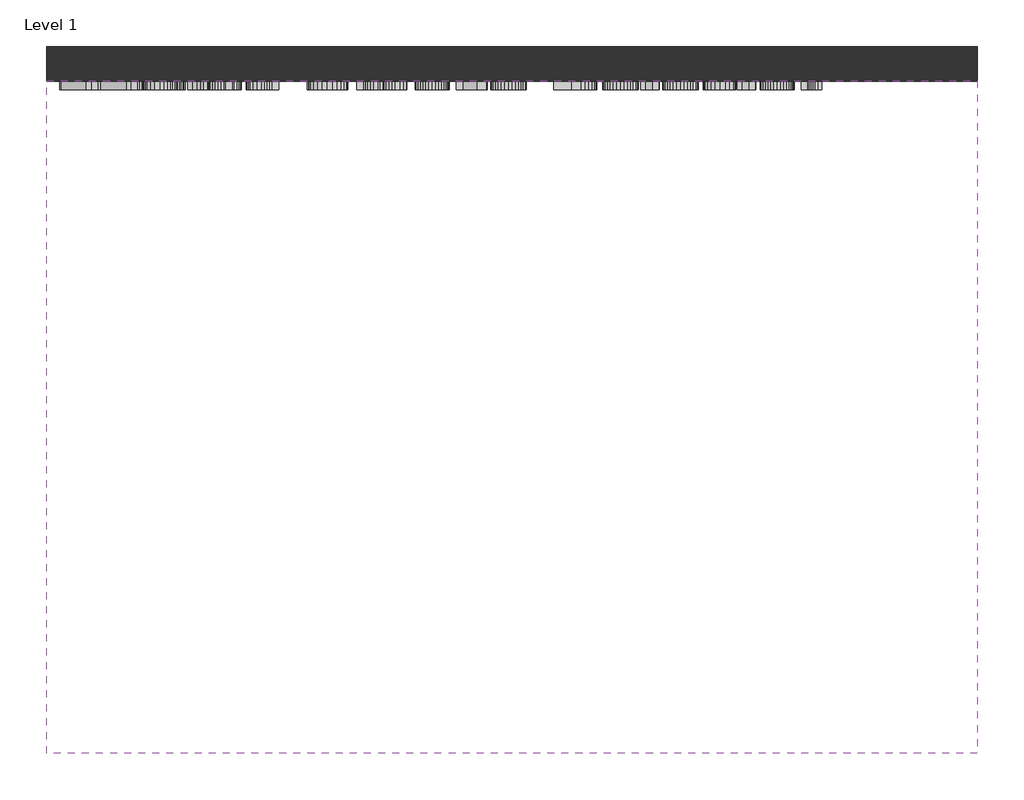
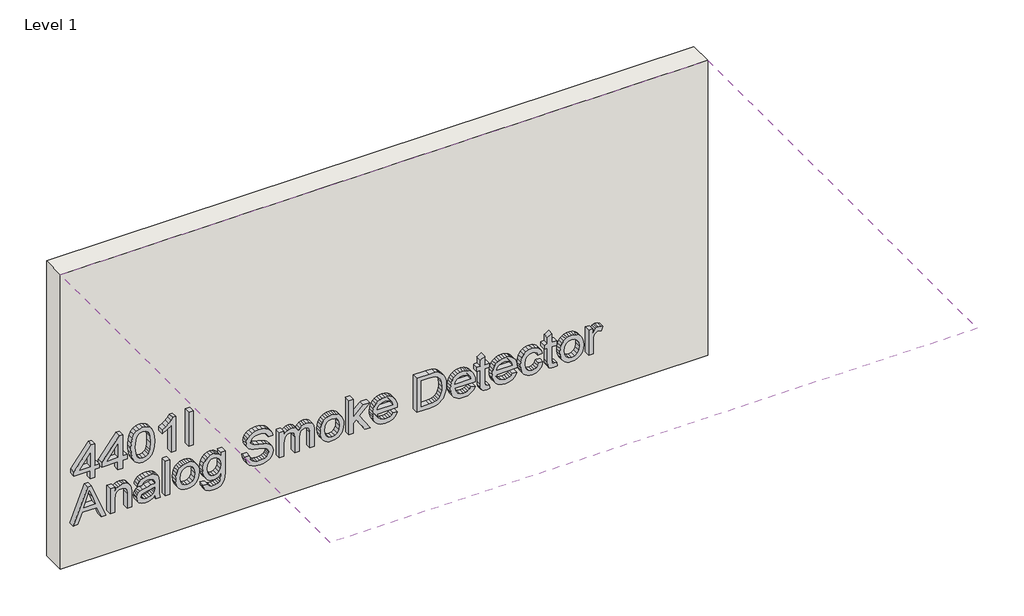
# One storey: 1 covering, 1 proxy, 1 wall.
"""IFC4 building model written with IfcOpenShell, lengths in millimetres."""

from ifc_helpers import new_model, si_unit, frame, origin, origin_with_axes, place, context, project, spatial, polyline, outline, extrude, element, save

model = new_model("IFC4")

# Units and contexts
model_context = context("Model", 3, world=origin())
ifc_project = project(units=[si_unit("LENGTHUNIT", "METRE", prefix="MILLI")], contexts=[model_context])

# Site, building, storey
site = spatial("IfcSite", under=ifc_project)
building = spatial("IfcBuilding", under=site)
storey = spatial("IfcBuildingStorey", under=building, Name="Level 1", Elevation=0.0)

# Proxy
placement = place(None, origin())
element("IfcBuildingElementProxy", 1, Name="300 mm Arial 2", ObjectType="300 mm Arial 2", at=placement, inside=storey, context=model_context, shape_type="SweptSolid", body=[
    extrude(outline(polyline([(751.1294539, -4301.5367168), (751.1294539, -4263.8656005), (821.762797, -4263.8656005), (821.762797, -4226.1944842), (859.4339133, -4226.1944842), (859.4339133, -4263.8656005), (1047.7894948, -4263.8656005), (1047.7894948, -4292.1189377), (859.4339133, -4438.0945134), (821.762797, -4438.0945134), (821.762797, -4301.5367168), (751.1294539, -4301.5367168)]), holes=[polyline([(859.4339133, -4301.5367168), (859.4339133, -4391.741382), (975.8317766, -4301.5367168), (859.4339133, -4301.5367168)])]), frame((0.0, 3097.8550077, 0.0), z_axis=(0.0, 1.0, 0.0), x_axis=(0.0, 0.0, 1.0)), (0.0, 0.0, 1.0), 50.0),
    extrude(outline(polyline([(751.1294539, -4070.8011294), (751.1294539, -4033.1300131), (821.762797, -4033.1300131), (821.762797, -3995.4588968), (859.4339133, -3995.4588968), (859.4339133, -4033.1300131), (1047.7894948, -4033.1300131), (1047.7894948, -4061.3833504), (859.4339133, -4207.3589261), (821.762797, -4207.3589261), (821.762797, -4070.8011294), (751.1294539, -4070.8011294)]), holes=[polyline([(859.4339133, -4070.8011294), (859.4339133, -4161.0057947), (975.8317766, -4070.8011294), (859.4339133, -4070.8011294)])]), frame((0.0, 3097.8550077, 0.0), z_axis=(0.0, 1.0, 0.0), x_axis=(0.0, 0.0, 1.0)), (0.0, 0.0, 1.0), 50.0),
    extrude(outline(polyline([(899.385898, -3962.4966701), (859.9443495, -3960.6204719), (826.0854104, -3954.9918774), (797.8090806, -3945.6108865), (775.11536, -3932.4774993), (762.5613869, -3918.792289), (753.5942633, -3902.752634), (748.2139891, -3884.3585343), (746.4205644, -3863.6099898), (750.5500398, -3833.1585576), (762.9384659, -3808.4644787), (783.7237987, -3789.3622061), (813.0439937, -3775.6861929), (851.4232828, -3767.4640303), (899.385898, -3764.7233095), (939.3470797, -3766.4339607), (970.203182, -3771.5659146), (994.5017878, -3779.4018011), (1014.7904798, -3789.2242503), (1030.9313024, -3802.2288789), (1042.7862997, -3819.6113031), (1050.0703632, -3840.3966359), (1052.4983843, -3863.6099898), (1048.3965001, -3893.895875), (1036.0908474, -3918.5347716), (1015.3882881, -3937.6646354), (986.0956842, -3951.423422), (947.6244246, -3959.728358), (899.385898, -3962.4966701)]), holes=[polyline([(899.4594744, -3924.8255538), (957.9527116, -3920.263817), (979.0323499, -3914.5616461), (994.6673347, -3906.5786068), (1009.7872847, -3887.632684), (1014.827268, -3864.0514482), (1009.106703, -3839.1458371), (991.9450079, -3819.4641503), (977.5838146, -3811.9961458), (957.3824945, -3806.6618569), (899.4594744, -3802.3944258), (840.2948525, -3806.8090097), (820.0314523, -3812.3272396), (805.9806594, -3820.0527615), (789.5639253, -3839.7712365), (784.0916807, -3863.6099898), (789.5455312, -3887.448743), (805.907083, -3907.167218), (819.9348833, -3914.8927399), (840.202882, -3920.4109698), (899.4594744, -3924.8255538)])]), frame((0.0, 3097.8550077, 0.0), z_axis=(0.0, 1.0, 0.0), x_axis=(0.0, 0.0, 1.0)), (0.0, 0.0, 1.0), 50.0),
    extrude(outline(polyline([(751.1294539, -3590.4943965), (1052.4983843, -3590.4943965), (1052.4983843, -3614.7746082), (1032.7615153, -3628.0827394), (1012.3992469, -3648.288658), (993.250989, -3673.920836), (977.1561517, -3703.5077455), (941.5451746, -3703.5077455), (960.5646738, -3663.8500664), (985.9853196, -3628.1655128), (751.1294539, -3628.1655128), (751.1294539, -3590.4943965)])), frame((0.0, 3097.8550077, 0.0), z_axis=(0.0, 1.0, 0.0), x_axis=(0.0, 0.0, 1.0)), (0.0, 0.0, 1.0), 50.0),
    extrude(outline(polyline([(-3444.5188209, 3097.8550077), (-3482.1899372, 3097.8550077), (-3482.1899372, 3147.8550077), (-3444.5188209, 3147.8550077), (-3444.5188209, 3097.8550077)])), frame((0.0, 0.0, 751.1294539), z_axis=(0.0, 0.0, 1.0), x_axis=(1.0, 0.0, 0.0)), (0.0, 0.0, 1.0), 301.3689304),
    extrude(outline(polyline([(385.2050004, -4444.9371185), (385.2050004, -4405.1322867), (479.3827911, -4370.6985319), (479.3827911, -4246.5751467), (385.2050004, -4212.0678156), (385.2050004, -4172.2629837), (686.5739308, -4292.5603961), (686.5739308, -4324.6397061), (385.2050004, -4444.9371185)]), holes=[polyline([(517.0539074, -4356.8661689), (597.6200644, -4327.3620329), (648.9028145, -4308.6000511), (591.1453413, -4287.4836246), (517.0539074, -4260.3339334), (517.0539074, -4356.8661689)])]), frame((0.0, 3097.8550077, 0.0), z_axis=(0.0, 1.0, 0.0), x_axis=(0.0, 0.0, 1.0)), (0.0, 0.0, 1.0), 50.0),
    extrude(outline(polyline([(385.2050004, -4136.725583), (385.2050004, -4099.0544667), (502.6329332, -4099.0544667), (537.3425995, -4094.7594444), (549.7172301, -4089.3906665), (558.7717257, -4081.8743775), (569.8633678, -4063.0664105), (573.5605819, -4041.0026878), (571.91431, -4027.1059455), (566.9754942, -4015.1405836), (559.2775634, -4005.8055779), (549.3539466, -3999.7999044), (516.0238378, -3995.4588968), (385.2050004, -3995.4588968), (385.2050004, -3957.7877805), (521.1006094, -3957.7877805), (557.5209269, -3959.7743433), (585.2224411, -3971.0683205), (595.7622603, -3981.1666813), (604.0579993, -3995.3485322), (609.4382735, -4012.3538775), (611.2316982, -4030.9227212), (609.0060121, -4051.9011919), (602.3289539, -4070.2493064), (591.2005236, -4085.9670647), (575.6207211, -4099.0544667), (606.5228087, -4099.0544667), (606.5228087, -4136.725583), (385.2050004, -4136.725583)])), frame((0.0, 3097.8550077, 0.0), z_axis=(0.0, 1.0, 0.0), x_axis=(0.0, 0.0, 1.0)), (0.0, 0.0, 1.0), 50.0),
    extrude(outline(polyline([(413.4583376, -3764.7233095), (385.2050004, -3755.3055304), (385.2050004, -3717.6344141), (416.8796401, -3725.1392068), (482.3258471, -3727.0521931), (529.1940133, -3727.0521931), (562.15624, -3728.8916031), (576.2737116, -3733.4349458), (587.7240387, -3740.4430978), (596.9854679, -3751.0105081), (604.5362459, -3766.2316256), (609.5578351, -3786.4191501), (611.2316982, -3811.8857812), (609.3371059, -3838.4376642), (603.6533291, -3861.5866388), (594.4746733, -3880.5141674), (582.0954442, -3894.4017128), (565.9086364, -3904.1597827), (545.3072447, -3910.6988851), (540.5983551, -3873.0277688), (556.2609311, -3865.5413702), (566.3133066, -3854.8543983), (571.7487631, -3839.1826253), (573.5605819, -3816.7418236), (570.8382551, -3792.4984001), (562.6712748, -3775.0975817), (551.6716032, -3767.3168775), (534.859396, -3764.7233095), (526.4716865, -3764.9440387), (519.4819286, -3791.7626361), (513.5222403, -3830.279881), (507.8568576, -3862.8742258), (495.4960225, -3889.2513648), (486.004667, -3899.8555633), (473.8645612, -3908.1972876), (459.6827103, -3913.6051529), (444.0661196, -3915.4077747), (418.7374442, -3910.6345058), (398.3751758, -3896.3146991), (384.9658771, -3873.0921482), (380.4961108, -3841.6106464), (382.3539149, -3820.7425403), (387.9273271, -3801.2539916), (398.0256879, -3782.7219361), (413.4583376, -3764.7233095)]), holes=[polyline([(488.8005702, -3764.7233095), (478.1319923, -3764.9440387), (461.2094206, -3766.4339607), (448.9957383, -3770.903727), (437.140741, -3780.9836936), (427.180336, -3795.4782443), (420.4205043, -3813.3573092), (418.1672271, -3833.590819), (420.2089722, -3852.6746975), (426.3342074, -3866.5162575), (435.5128632, -3874.9315582), (446.71487, -3877.7366584), (461.2094206, -3872.5863104), (471.1422344, -3857.9078188), (477.2490756, -3825.4974151), (488.8005702, -3764.7233095)])]), frame((0.0, 3097.8550077, 0.0), z_axis=(0.0, 1.0, 0.0), x_axis=(0.0, 0.0, 1.0)), (0.0, 0.0, 1.0), 50.0),
    extrude(outline(polyline([(-3637.5832919, 3097.8550077), (-3675.2544082, 3097.8550077), (-3675.2544082, 3147.8550077), (-3637.5832919, 3147.8550077), (-3637.5832919, 3097.8550077)])), frame((0.0, 0.0, 385.2050004), z_axis=(0.0, 0.0, 1.0), x_axis=(1.0, 0.0, 0.0)), (0.0, 0.0, 1.0), 301.3689304),
    extrude(outline(polyline([(495.8639045, -3590.4943965), (469.5419478, -3588.7860445), (446.4941408, -3583.6609885), (426.7204835, -3575.1192284), (410.220976, -3563.1607643), (397.2163475, -3548.4339882), (387.9273271, -3531.5872921), (382.3539149, -3512.6206759), (380.4961108, -3491.5341398), (383.8714281, -3464.9454686), (393.99738, -3440.5089071), (410.2301731, -3419.9351065), (431.9260137, -3404.9347182), (460.8967209, -3395.7744565), (498.9541133, -3392.7210359), (523.8344325, -3394.447782), (545.8682647, -3399.6280204), (565.05561, -3408.261751), (581.3964684, -3420.3489738), (594.4493814, -3435.1585233), (603.7728907, -3451.9592342), (609.3669963, -3470.7511064), (611.2316982, -3491.5341398), (609.7003894, -3510.3605009), (605.106463, -3527.69694), (597.449919, -3543.5434569), (586.7307573, -3557.9000518), (569.9599369, -3572.1600776), (549.2251879, -3582.3458103), (524.5265105, -3588.45725), (495.8639045, -3590.4943965)]), holes=[polyline([(495.9374809, -3552.8232802), (530.0125507, -3548.4638786), (554.2467771, -3535.3856737), (568.7321307, -3515.7039869), (573.5605819, -3491.5341398), (568.7137366, -3467.6126131), (554.1732007, -3447.9401234), (530.2148858, -3434.779145), (497.1147033, -3430.3921522), (462.2762784, -3434.7515539), (437.6649729, -3447.8297588), (423.0416636, -3467.4746574), (418.1672271, -3491.5341398), (423.0140724, -3515.7039869), (437.5546083, -3535.3856737), (461.844017, -3548.4638786), (495.9374809, -3552.8232802)])]), frame((0.0, 3097.8550077, 0.0), z_axis=(0.0, 1.0, 0.0), x_axis=(0.0, 0.0, 1.0)), (0.0, 0.0, 1.0), 50.0),
    extrude(outline(polyline([(366.3694422, -3359.7588092), (349.784862, -3358.6206742), (335.4213694, -3354.3969291), (323.2789643, -3347.0875737), (313.3576467, -3336.6926081), (300.141486, -3309.0922614), (295.7360991, -3274.0423043), (298.8630961, -3243.9587541), (308.244087, -3219.043946), (323.005352, -3199.7209442), (342.2731715, -3186.412813), (371.3266521, -3178.6872911), (415.4449004, -3176.1121172), (606.5228087, -3176.1121172), (606.5228087, -3213.7832335), (578.2694714, -3213.7832335), (592.6904456, -3226.516549), (602.9911415, -3240.8777424), (609.171559, -3256.8668136), (611.2316982, -3274.4837627), (607.5896664, -3300.2814876), (596.6635712, -3322.4923631), (579.0512207, -3340.5001867), (555.3504231, -3353.6887562), (527.3821944, -3361.7729631), (496.9675505, -3364.4676987), (474.7934632, -3362.9662803), (454.2564509, -3358.4620251), (435.3565134, -3350.9549332), (418.0936507, -3340.4450044), (403.7048662, -3327.1989533), (393.427163, -3311.4834943), (387.260541, -3293.2986275), (385.2050004, -3272.6443527), (386.9708339, -3255.7493721), (392.2683347, -3240.3075253), (401.0975026, -3226.3188125), (413.4583376, -3213.7832335), (369.5332274, -3216.3584074), (354.3029128, -3223.3481654), (342.8985709, -3234.7525072), (335.7800543, -3251.1968324), (333.4072154, -3273.3065403), (335.5041428, -3294.0366907), (341.7949249, -3309.8740106), (349.8883288, -3317.9306263), (361.6605527, -3322.0876929), (366.3694422, -3359.7588092)]), holes=[polyline([(499.5427245, -3326.7965824), (531.7415961, -3322.7222893), (554.9089647, -3310.49941), (568.8976776, -3292.4639952), (573.5605819, -3270.9520955), (568.8241012, -3249.0447227), (554.6146591, -3230.5586525), (531.0978026, -3217.9770882), (498.4390785, -3213.7832335), (464.5755408, -3217.8575266), (441.1230636, -3230.0804059), (427.4378534, -3248.2997617), (422.8761167, -3270.3634843), (427.4654446, -3292.5927539), (441.2334282, -3310.7201392), (464.9894081, -3322.7774716), (499.5427245, -3326.7965824)])]), frame((0.0, 3097.8550077, 0.0), z_axis=(0.0, 1.0, 0.0), x_axis=(0.0, 0.0, 1.0)), (0.0, 0.0, 1.0), 50.0),
    extrude(outline(polyline([(488.8005702, -3011.3009833), (458.3767292, -3006.8312171), (431.2638262, -2995.0405991), (409.0069654, -2976.6740905), (393.1512515, -2952.4766523), (383.659896, -2922.0987966), (380.4961108, -2885.1910354), (383.4299697, -2855.1258793), (392.2315465, -2828.2061143), (406.3214269, -2805.8204949), (425.1201968, -2789.3577756), (446.9631903, -2779.2318237), (470.1857412, -2775.8565064), (492.9024544, -2778.7903653), (512.7864763, -2787.5919421), (529.6538658, -2802.5739363), (543.3206819, -2824.0490478), (552.1314557, -2849.1753881), (562.2298164, -2890.7092653), (572.8616061, -2930.9555556), (583.2726666, -2952.2191349), (594.9161317, -2961.2138497), (609.3922882, -2964.212088), (626.3700423, -2959.981445), (640.6622578, -2947.2895162), (650.3743425, -2925.3453552), (653.611704, -2893.3580157), (650.3375543, -2862.1064402), (640.515105, -2839.573668), (624.291509, -2825.1526938), (601.8139191, -2818.2365123), (601.8139191, -2780.565396), (626.7747125, -2784.814433), (648.9763909, -2795.501405), (667.2785202, -2812.3871885), (680.5406661, -2835.2326604), (688.5972818, -2863.0445393), (691.2828203, -2894.8295437), (688.7168434, -2924.1681328), (681.0189127, -2950.6740305), (668.363772, -2972.7561473), (650.9261655, -2988.8233934), (630.3523649, -2998.6182515), (608.2886422, -3001.8832043), (588.5517732, -2999.2436509), (570.8382551, -2991.324991), (555.4791818, -2978.0352539), (542.8056471, -2959.2824692), (533.746553, -2936.2438593), (524.2276063, -2900.237409), (509.8434203, -2845.3862035), (502.035125, -2829.3097603), (492.7369076, -2819.7816166), (481.8384034, -2815.0911212), (469.2292481, -2813.5276227), (456.2889989, -2815.615353), (443.955755, -2821.878544), (433.2136007, -2832.4091661), (425.0466204, -2847.2991899), (419.8870755, -2865.6748955), (418.1672271, -2886.6625634), (420.4388984, -2910.5013167), (427.2539124, -2931.8384724), (437.7569434, -2949.294473), (451.0926657, -2961.4897612), (467.8956758, -2969.3072536), (488.8005702, -2973.629867), (488.8005702, -3011.3009833)])), frame((0.0, 3097.8550077, 0.0), z_axis=(0.0, 1.0, 0.0), x_axis=(0.0, 0.0, 1.0)), (0.0, 0.0, 1.0), 50.0),
    extrude(outline(polyline([(385.2050004, -2724.0587215), (385.2050004, -2686.3876052), (496.8203977, -2686.3876052), (522.7376843, -2684.9528654), (541.7755775, -2680.6486461), (555.4975759, -2673.1438534), (565.467178, -2662.1073935), (571.5372309, -2648.734883), (573.5605819, -2634.2219383), (570.5255554, -2617.1430167), (561.4204761, -2605.6375073), (546.2269497, -2599.0984048), (524.9265821, -2596.918704), (385.2050004, -2596.918704), (385.2050004, -2559.2475877), (510.1377259, -2559.2475877), (538.8509156, -2555.5595707), (558.4774201, -2544.4955197), (569.7897914, -2527.8580564), (573.5605819, -2507.4498027), (572.0890539, -2495.889111), (567.67447, -2485.928706), (560.859456, -2478.18479), (552.186638, -2473.2735654), (520.7327274, -2469.7786864), (385.2050004, -2469.7786864), (385.2050004, -2432.1075701), (536.9195352, -2432.1075701), (569.890959, -2436.4209865), (593.0215394, -2449.3612357), (606.6791585, -2470.3029183), (611.2316982, -2498.6206349), (608.4955759, -2518.1459717), (600.2872088, -2535.7399282), (586.6065971, -2551.4025041), (567.4537408, -2565.1336996), (585.8938258, -2573.3374681), (599.7169917, -2585.8822441), (608.3530216, -2602.6760572), (611.2316982, -2623.6269368), (608.4082039, -2643.1798649), (599.9377209, -2660.4887127), (586.8319249, -2675.0568397), (570.1024911, -2686.3876052), (606.5228087, -2686.3876052), (606.5228087, -2724.0587215), (385.2050004, -2724.0587215)])), frame((0.0, 3097.8550077, 0.0), z_axis=(0.0, 1.0, 0.0), x_axis=(0.0, 0.0, 1.0)), (0.0, 0.0, 1.0), 50.0),
    extrude(outline(polyline([(495.8639045, -2385.0186747), (469.5419478, -2383.3103227), (446.4941408, -2378.1852667), (426.7204835, -2369.6435066), (410.220976, -2357.6850425), (397.2163475, -2342.9582664), (387.9273271, -2326.1115703), (382.3539149, -2307.1449542), (380.4961108, -2286.058418), (383.8714281, -2259.4697468), (393.99738, -2235.0331853), (410.2301731, -2214.4593847), (431.9260137, -2199.4589964), (460.8967209, -2190.2987347), (498.9541133, -2187.2453141), (523.8344325, -2188.9720603), (545.8682647, -2194.1522986), (565.05561, -2202.7860292), (581.3964684, -2214.873252), (594.4493814, -2229.6828015), (603.7728907, -2246.4835124), (609.3669963, -2265.2753846), (611.2316982, -2286.058418), (609.7003894, -2304.8847791), (605.106463, -2322.2212182), (597.449919, -2338.0677351), (586.7307573, -2352.42433), (569.9599369, -2366.6843558), (549.2251879, -2376.8700886), (524.5265105, -2382.9815282), (495.8639045, -2385.0186747)]), holes=[polyline([(495.9374809, -2347.3475584), (530.0125507, -2342.9881568), (554.2467771, -2329.9099519), (568.7321307, -2310.2282651), (573.5605819, -2286.058418), (568.7137366, -2262.1368913), (554.1732007, -2242.4644016), (530.2148858, -2229.3034232), (497.1147033, -2224.9164304), (462.2762784, -2229.2758321), (437.6649729, -2242.354037), (423.0416636, -2261.9989356), (418.1672271, -2286.058418), (423.0140724, -2310.2282651), (437.5546083, -2329.9099519), (461.844017, -2342.9881568), (495.9374809, -2347.3475584)])]), frame((0.0, 3097.8550077, 0.0), z_axis=(0.0, 1.0, 0.0), x_axis=(0.0, 0.0, 1.0)), (0.0, 0.0, 1.0), 50.0),
    extrude(outline(polyline([(385.2050004, -2144.8653083), (385.2050004, -2107.194192), (474.0852904, -2107.194192), (497.4090089, -2083.1347095), (385.2050004, -2009.9261925), (385.2050004, -1965.9275058), (523.6022069, -2056.1321711), (606.5228087, -1970.6363954), (606.5228087, -2022.7284859), (524.6322765, -2107.194192), (686.5739308, -2107.194192), (686.5739308, -2144.8653083), (385.2050004, -2144.8653083)])), frame((0.0, 3097.8550077, 0.0), z_axis=(0.0, 1.0, 0.0), x_axis=(0.0, 0.0, 1.0)), (0.0, 0.0, 1.0), 50.0),
    extrude(outline(polyline([(451.1294539, -1778.0133827), (436.2486272, -1788.571596), (426.0399018, -1802.2935944), (420.1353958, -1819.179378), (418.1672271, -1839.2289467), (422.4162642, -1865.8911943), (435.1633753, -1887.7525819), (455.8935257, -1902.900123), (484.0916807, -1909.4208314), (484.0916807, -1740.1215372), (494.2452237, -1739.900808), (520.4982026, -1741.6873349), (543.6333816, -1747.0469158), (563.6507606, -1755.9795505), (580.5503398, -1768.485239), (593.9734341, -1783.8052249), (603.5613586, -1801.1807513), (609.3141133, -1820.6118185), (611.2316982, -1842.0984263), (609.3095148, -1864.3001047), (603.5429645, -1884.3312793), (593.9320474, -1902.1919502), (580.4767634, -1917.8821173), (563.540396, -1930.6614181), (543.4862288, -1939.7894901), (520.3142616, -1945.2663333), (494.0244945, -1947.0919477), (468.5969509, -1945.2847274), (446.172244, -1939.8630665), (426.7503739, -1930.826965), (410.3313406, -1918.1764229), (397.2784276, -1902.444869), (387.9549183, -1884.1657324), (382.3608127, -1863.339013), (380.4961108, -1839.9647107), (384.8187243, -1804.3077483), (397.7865646, -1775.6221497), (418.5902914, -1754.3861616), (446.4205644, -1741.0780304), (451.1294539, -1778.0133827)]), holes=[polyline([(521.762797, -1909.4208314), (542.9987851, -1903.2312168), (559.4707015, -1888.6354987), (570.0381118, -1867.6386338), (573.5605819, -1842.2455791), (569.1459979, -1814.6176412), (555.9022461, -1792.6550861), (541.6652129, -1782.6670899), (521.762797, -1777.5719243), (521.762797, -1909.4208314)])]), frame((0.0, 3097.8550077, 0.0), z_axis=(0.0, 1.0, 0.0), x_axis=(0.0, 0.0, 1.0)), (0.0, 0.0, 1.0), 50.0),
    extrude(outline(polyline([(385.2050004, -1579.7985637), (385.2050004, -1470.8319167), (390.3553483, -1422.381858), (396.7105098, -1402.838127), (405.4752983, -1386.3662106), (417.2935074, -1372.0188128), (432.8089305, -1358.8486374), (452.4630261, -1347.4075073), (476.6972526, -1338.2472457), (505.1621219, -1332.232375), (537.5081464, -1330.2274182), (575.5839329, -1333.1888682), (609.171559, -1342.0732184), (637.7192019, -1356.9172569), (660.6750383, -1377.757772), (673.8636079, -1398.0280699), (682.2329233, -1422.0507642), (686.5739308, -1475.8351119), (686.5739308, -1579.7985637), (385.2050004, -1579.7985637)]), holes=[polyline([(422.8761167, -1542.1274474), (648.9028145, -1542.1274474), (648.9028145, -1476.4972995), (647.3944983, -1444.7490833), (642.8695498, -1423.0808338), (630.2879855, -1401.7896633), (609.4658646, -1383.9749777), (579.1523882, -1371.9176453), (538.0967576, -1367.8985345), (507.1118965, -1369.9494766), (481.1118365, -1376.102303), (460.004607, -1385.9339493), (443.6982376, -1399.0213513), (434.8874638, -1411.1982453), (428.3207702, -1426.9803829), (424.23728, -1447.8944743), (422.8761167, -1475.4672299), (422.8761167, -1542.1274474)])]), frame((0.0, 3097.8550077, 0.0), z_axis=(0.0, 1.0, 0.0), x_axis=(0.0, 0.0, 1.0)), (0.0, 0.0, 1.0), 50.0),
    extrude(outline(polyline([(451.1294539, -1128.1866264), (436.2486272, -1138.7448397), (426.0399018, -1152.4668381), (420.1353958, -1169.3526217), (418.1672271, -1189.4021904), (422.4162642, -1216.064438), (435.1633753, -1237.9258256), (455.8935257, -1253.0733667), (484.0916807, -1259.5940751), (484.0916807, -1090.2947809), (494.2452237, -1090.0740517), (520.4982026, -1091.8605787), (543.6333816, -1097.2201595), (563.6507606, -1106.1527942), (580.5503398, -1118.6584827), (593.9734341, -1133.9784686), (603.5613586, -1151.3539951), (609.3141133, -1170.7850622), (611.2316982, -1192.27167), (609.3095148, -1214.4733484), (603.5429645, -1234.504523), (593.9320474, -1252.3651939), (580.4767634, -1268.055361), (563.540396, -1280.8346618), (543.4862288, -1289.9627338), (520.3142616, -1295.439577), (494.0244945, -1297.2651914), (468.5969509, -1295.4579711), (446.172244, -1290.0363102), (426.7503739, -1281.0002087), (410.3313406, -1268.3496666), (397.2784276, -1252.6181128), (387.9549183, -1234.3389761), (382.3608127, -1213.5122567), (380.4961108, -1190.1379544), (384.8187243, -1154.480992), (397.7865646, -1125.7953935), (418.5902914, -1104.5594053), (446.4205644, -1091.2512741), (451.1294539, -1128.1866264)]), holes=[polyline([(521.762797, -1259.5940751), (542.9987851, -1253.4044605), (559.4707015, -1238.8087424), (570.0381118, -1217.8118775), (573.5605819, -1192.4188228), (569.1459979, -1164.7908849), (555.9022461, -1142.8283298), (541.6652129, -1132.8403337), (521.762797, -1127.745168), (521.762797, -1259.5940751)])]), frame((0.0, 3097.8550077, 0.0), z_axis=(0.0, 1.0, 0.0), x_axis=(0.0, 0.0, 1.0)), (0.0, 0.0, 1.0), 50.0),
    extrude(outline(polyline([(416.6221227, -972.3518133), (418.1672271, -988.7593503), (420.7056129, -1001.5984319), (427.5850062, -1008.0363668), (447.0091756, -1010.0229296), (568.8516924, -1010.0229296), (568.8516924, -972.3518133), (606.5228087, -972.3518133), (606.5228087, -1010.0229296), (682.4536525, -1010.0229296), (660.3071564, -1047.6940459), (606.5228087, -1047.6940459), (606.5228087, -1075.9473831), (568.8516924, -1075.9473831), (568.8516924, -1047.6940459), (445.9055296, -1047.6940459), (418.9213852, -1046.5536117), (403.1576417, -1043.1323091), (393.9789859, -1036.9151034), (386.7501047, -1027.3869597), (382.0596093, -1013.9040846), (380.4961108, -995.8226846), (384.1013544, -967.6429237), (416.6221227, -972.3518133)])), frame((0.0, 3097.8550077, 0.0), z_axis=(0.0, 1.0, 0.0), x_axis=(0.0, 0.0, 1.0)), (0.0, 0.0, 1.0), 50.0),
    extrude(outline(polyline([(451.1294539, -779.7288006), (436.2486272, -790.2870139), (426.0399018, -804.0090123), (420.1353958, -820.8947959), (418.1672271, -840.9443646), (422.4162642, -867.6066122), (435.1633753, -889.4679998), (455.8935257, -904.6155409), (484.0916807, -911.1362493), (484.0916807, -741.8369551), (494.2452237, -741.6162259), (520.4982026, -743.4027528), (543.6333816, -748.7623336), (563.6507606, -757.6949683), (580.5503398, -770.2006569), (593.9734341, -785.5206428), (603.5613586, -802.8961692), (609.3141133, -822.3272364), (611.2316982, -843.8138442), (609.3095148, -866.0155226), (603.5429645, -886.0466972), (593.9320474, -903.9073681), (580.4767634, -919.5975352), (563.540396, -932.376836), (543.4862288, -941.504908), (520.3142616, -946.9817512), (494.0244945, -948.8073656), (468.5969509, -947.0001453), (446.172244, -941.5784844), (426.7503739, -932.5423829), (410.3313406, -919.8918408), (397.2784276, -904.1602869), (387.9549183, -885.8811503), (382.3608127, -865.0544308), (380.4961108, -841.6801286), (384.8187243, -806.0231662), (397.7865646, -777.3375676), (418.5902914, -756.1015795), (446.4205644, -742.7934483), (451.1294539, -779.7288006)]), holes=[polyline([(521.762797, -911.1362493), (542.9987851, -904.9466347), (559.4707015, -890.3509165), (570.0381118, -869.3540517), (573.5605819, -843.9609969), (569.1459979, -816.3330591), (555.9022461, -794.370504), (541.6652129, -784.3825078), (521.762797, -779.2873422), (521.762797, -911.1362493)])]), frame((0.0, 3097.8550077, 0.0), z_axis=(0.0, 1.0, 0.0), x_axis=(0.0, 0.0, 1.0)), (0.0, 0.0, 1.0), 50.0),
    extrude(outline(polyline([(465.2561225, -562.6784234), (444.3788193, -569.1071613), (429.7187218, -580.7414294), (421.0551008, -596.7350991), (418.1672271, -616.2420419), (422.7933432, -640.2739333), (436.6716915, -659.2474472), (460.7771592, -671.5806911), (496.0846337, -675.6917724), (530.9230587, -671.4887206), (554.9457529, -658.8795652), (568.9068747, -639.5565634), (573.5605819, -615.2119723), (571.1969401, -598.7216619), (564.1060146, -584.8617077), (552.3245937, -574.220721), (535.8894656, -567.387313), (540.5983551, -529.7161967), (570.5807377, -539.9709073), (592.8375984, -558.2270513), (606.6331733, -583.6752883), (611.2316982, -615.5062779), (607.883972, -642.1501314), (597.8407936, -666.7522399), (581.0929657, -687.3168434), (557.6312915, -701.8481822), (528.5778109, -710.484212), (495.0545641, -713.3628887), (468.9970226, -711.6775293), (446.1538499, -706.6214511), (426.5250462, -698.1946541), (410.1106114, -686.3971384), (397.1542674, -671.8221136), (387.899736, -655.0627895), (382.3470171, -636.119166), (380.4961108, -614.9912432), (385.8028086, -582.3601102), (401.7229019, -555.2472071), (427.0423803, -535.5103381), (460.547233, -525.0073071), (465.2561225, -562.6784234)])), frame((0.0, 3097.8550077, 0.0), z_axis=(0.0, 1.0, 0.0), x_axis=(0.0, 0.0, 1.0)), (0.0, 0.0, 1.0), 50.0),
    extrude(outline(polyline([(416.6221227, -411.9939582), (418.1672271, -428.4014952), (420.7056129, -441.2405768), (427.5850062, -447.6785117), (447.0091756, -449.6650745), (568.8516924, -449.6650745), (568.8516924, -411.9939582), (606.5228087, -411.9939582), (606.5228087, -449.6650745), (682.4536525, -449.6650745), (660.3071564, -487.3361908), (606.5228087, -487.3361908), (606.5228087, -515.5895281), (568.8516924, -515.5895281), (568.8516924, -487.3361908), (445.9055296, -487.3361908), (418.9213852, -486.1957566), (403.1576417, -482.7744541), (393.9789859, -476.5572484), (386.7501047, -467.0291047), (382.0596093, -453.5462296), (380.4961108, -435.4648295), (384.1013544, -407.2850687), (416.6221227, -411.9939582)])), frame((0.0, 3097.8550077, 0.0), z_axis=(0.0, 1.0, 0.0), x_axis=(0.0, 0.0, 1.0)), (0.0, 0.0, 1.0), 50.0),
    extrude(outline(polyline([(495.8639045, -383.740621), (469.5419478, -382.032269), (446.4941408, -376.9072129), (426.7204835, -368.3654528), (410.220976, -356.4069887), (397.2163475, -341.6802126), (387.9273271, -324.8335165), (382.3539149, -305.8669004), (380.4961108, -284.7803643), (383.8714281, -258.1916931), (393.99738, -233.7551315), (410.2301731, -213.181331), (431.9260137, -198.1809426), (460.8967209, -189.0206809), (498.9541133, -185.9672604), (523.8344325, -187.6940065), (545.8682647, -192.8742448), (565.05561, -201.5079754), (581.3964684, -213.5951982), (594.4493814, -228.4047478), (603.7728907, -245.2054586), (609.3669963, -263.9973308), (611.2316982, -284.7803643), (609.7003894, -303.6067254), (605.106463, -320.9431644), (597.449919, -336.7896813), (586.7307573, -351.1462762), (569.9599369, -365.406302), (549.2251879, -375.5920348), (524.5265105, -381.7034744), (495.8639045, -383.740621)]), holes=[polyline([(495.9374809, -346.0695047), (530.0125507, -341.710103), (554.2467771, -328.6318981), (568.7321307, -308.9502114), (573.5605819, -284.7803643), (568.7137366, -260.8588375), (554.1732007, -241.1863479), (530.2148858, -228.0253695), (497.1147033, -223.6383767), (462.2762784, -227.9977783), (437.6649729, -241.0759833), (423.0416636, -260.7208818), (418.1672271, -284.7803643), (423.0140724, -308.9502114), (437.5546083, -328.6318981), (461.844017, -341.710103), (495.9374809, -346.0695047)])]), frame((0.0, 3097.8550077, 0.0), z_axis=(0.0, 1.0, 0.0), x_axis=(0.0, 0.0, 1.0)), (0.0, 0.0, 1.0), 50.0),
    extrude(outline(polyline([(385.2050004, -143.5872545), (385.2050004, -105.9161382), (501.5292872, -105.9161382), (524.4851237, -104.3894279), (545.5279739, -99.8092971), (557.2634095, -94.3554465), (566.1293656, -86.2344515), (571.7027778, -76.182076), (573.5605819, -64.934084), (571.6292014, -51.6903321), (565.83506, -38.4465803), (599.6066272, -25.8650161), (608.3254304, -44.9213034), (611.2316982, -63.6832852), (609.4106823, -75.9705438), (603.9476347, -87.2277329), (592.764022, -98.4481337), (573.7813111, -110.6250278), (606.5228087, -110.6250278), (606.5228087, -143.5872545), (385.2050004, -143.5872545)])), frame((0.0, 3097.8550077, 0.0), z_axis=(0.0, 1.0, 0.0), x_axis=(0.0, 0.0, 1.0)), (0.0, 0.0, 1.0), 50.0),
])

# Covering
element("IfcCovering", 2, ObjectType="Generic", at=placement, inside=storey, context=model_context, shape_type="SweptSolid", body=[
    extrude(outline(polyline([(877.4253408, 3147.8550077), (877.4253408, -752.1449923), (-4522.5746592, -752.1449923), (-4522.5746592, 3147.8550077), (877.4253408, 3147.8550077)])), frame((0.0, 0.0, 2600.0), z_axis=(0.0, 0.0, 1.0), x_axis=(1.0, 0.0, 0.0)), (0.0, 0.0, 1.0), 36.0),
])

# Wall
element("IfcWall", 3, ObjectType="Generic - 200mm", at=placement, inside=storey, context=model_context, shape_type="SweptSolid", body=[
    extrude(outline(polyline([(877.4253408, 3147.8550077), (-4522.5746592, 3147.8550077), (-4522.5746592, 3347.8550077), (877.4253408, 3347.8550077), (877.4253408, 3147.8550077)])), origin_with_axes(), (0.0, 0.0, 1.0), 2600.0),
])

save(model, "model.ifc")
